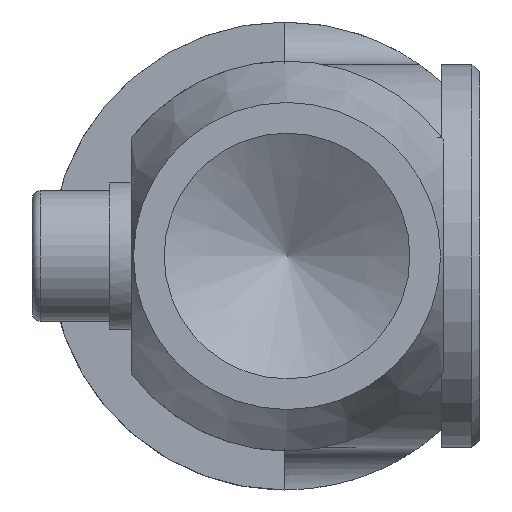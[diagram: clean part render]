
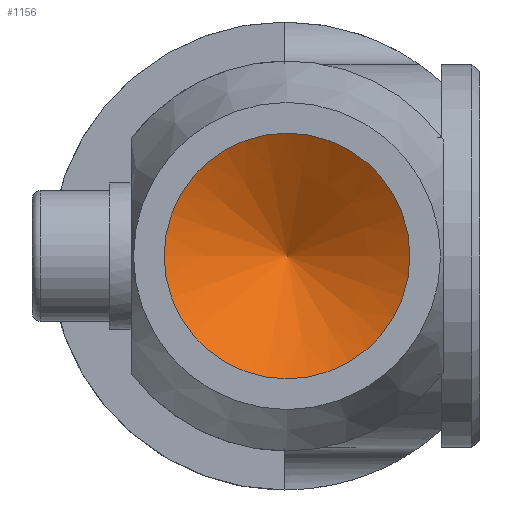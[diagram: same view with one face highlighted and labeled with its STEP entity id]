
A CAD part, front view. The second image highlights one B-rep face of the part: STEP entity #1156.
In plain terms, the highlighted conical face has half-angle 59 degrees and reference radius 4 mm.
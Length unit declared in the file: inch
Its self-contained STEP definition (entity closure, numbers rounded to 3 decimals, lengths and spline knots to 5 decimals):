
#182=FACE_OUTER_BOUND('',#258,.T.);
#258=EDGE_LOOP('',(#877,#878,#879));
#339=LINE('',#2021,#404);
#404=VECTOR('',#1592,0.15748);
#476=CIRCLE('',#1377,0.31496);
#550=VERTEX_POINT('',#2018);
#551=VERTEX_POINT('',#2020);
#673=EDGE_CURVE('',#550,#550,#476,.T.);
#674=EDGE_CURVE('',#550,#551,#339,.T.);
#877=ORIENTED_EDGE('',*,*,#673,.T.);
#878=ORIENTED_EDGE('',*,*,#674,.T.);
#879=ORIENTED_EDGE('',*,*,#674,.F.);
#1130=CONICAL_SURFACE('',#1376,0.15748,1.03);
#1156=ADVANCED_FACE('',(#182),#1130,.F.);
#1376=AXIS2_PLACEMENT_3D('',#2017,#1588,#1589);
#1377=AXIS2_PLACEMENT_3D('',#2019,#1590,#1591);
#1588=DIRECTION('center_axis',(0.,-1.,0.));
#1589=DIRECTION('ref_axis',(1.,0.,0.));
#1590=DIRECTION('center_axis',(0.,-1.,0.));
#1591=DIRECTION('ref_axis',(1.,0.,0.));
#1592=DIRECTION('',(0.857,0.515,0.));
#2017=CARTESIAN_POINT('Origin',(0.,1.43321,0.));
#2018=CARTESIAN_POINT('',(-0.31496,1.33858,0.));
#2019=CARTESIAN_POINT('Origin',(0.,1.33858,0.));
#2020=CARTESIAN_POINT('',(0.,1.52783,0.));
#2021=CARTESIAN_POINT('',(-0.15748,1.43321,0.));
